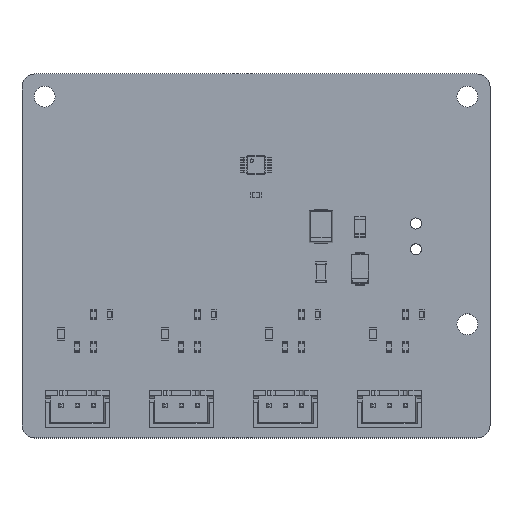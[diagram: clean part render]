
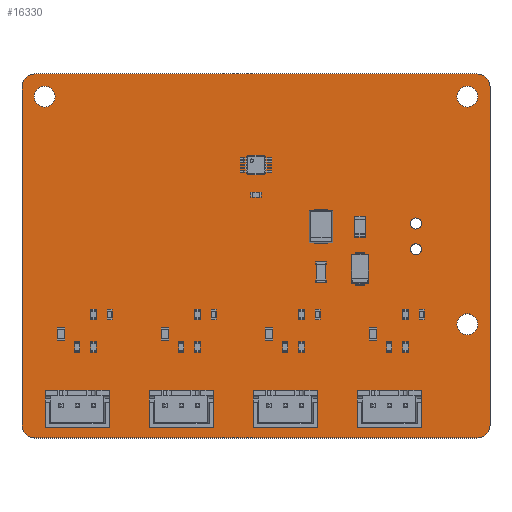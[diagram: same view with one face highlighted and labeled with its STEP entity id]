
A CAD part, top view. The second image highlights one B-rep face of the part: STEP entity #16330.
In plain terms, the highlighted planar face has unit normal (0, 0, 1).
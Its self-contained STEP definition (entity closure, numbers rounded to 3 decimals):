
#15994 = VERTEX_POINT('',#15995);
#15995 = CARTESIAN_POINT('',(170.,-100.,1.51));
#16001 = EDGE_CURVE('',#15994,#16002,#16004,.T.);
#16002 = VERTEX_POINT('',#16003);
#16003 = CARTESIAN_POINT('',(172.,-102.,1.51));
#16004 = CIRCLE('',#16005,2.);
#16005 = AXIS2_PLACEMENT_3D('',#16006,#16007,#16008);
#16006 = CARTESIAN_POINT('',(170.,-102.,1.51));
#16007 = DIRECTION('',(0.,0.,-1.));
#16008 = DIRECTION('',(0.,1.,0.));
#16036 = VERTEX_POINT('',#16037);
#16037 = CARTESIAN_POINT('',(102.,-100.,1.51));
#16043 = EDGE_CURVE('',#16036,#15994,#16044,.T.);
#16044 = LINE('',#16045,#16046);
#16045 = CARTESIAN_POINT('',(102.,-100.,1.51));
#16046 = VECTOR('',#16047,1.);
#16047 = DIRECTION('',(1.,0.,0.));
#16065 = EDGE_CURVE('',#16002,#16066,#16068,.T.);
#16066 = VERTEX_POINT('',#16067);
#16067 = CARTESIAN_POINT('',(172.,-154.,1.51));
#16068 = LINE('',#16069,#16070);
#16069 = CARTESIAN_POINT('',(172.,-102.,1.51));
#16070 = VECTOR('',#16071,1.);
#16071 = DIRECTION('',(0.,-1.,0.));
#16330 = ADVANCED_FACE('',(#16331,#16377,#16388,#16399,#16410,#16421,
    #16432,#16443,#16454,#16465,#16476,#16487,#16498,#16509,#16520,
    #16531,#16542,#16553),#16564,.T.);
#16331 = FACE_BOUND('',#16332,.T.);
#16332 = EDGE_LOOP('',(#16333,#16334,#16335,#16344,#16352,#16361,#16369,
    #16376));
#16333 = ORIENTED_EDGE('',*,*,#16001,.F.);
#16334 = ORIENTED_EDGE('',*,*,#16043,.F.);
#16335 = ORIENTED_EDGE('',*,*,#16336,.F.);
#16336 = EDGE_CURVE('',#16337,#16036,#16339,.T.);
#16337 = VERTEX_POINT('',#16338);
#16338 = CARTESIAN_POINT('',(100.,-102.,1.51));
#16339 = CIRCLE('',#16340,2.);
#16340 = AXIS2_PLACEMENT_3D('',#16341,#16342,#16343);
#16341 = CARTESIAN_POINT('',(102.,-102.,1.51));
#16342 = DIRECTION('',(0.,0.,-1.));
#16343 = DIRECTION('',(-1.,0.,-0.));
#16344 = ORIENTED_EDGE('',*,*,#16345,.F.);
#16345 = EDGE_CURVE('',#16346,#16337,#16348,.T.);
#16346 = VERTEX_POINT('',#16347);
#16347 = CARTESIAN_POINT('',(100.,-154.,1.51));
#16348 = LINE('',#16349,#16350);
#16349 = CARTESIAN_POINT('',(100.,-154.,1.51));
#16350 = VECTOR('',#16351,1.);
#16351 = DIRECTION('',(0.,1.,0.));
#16352 = ORIENTED_EDGE('',*,*,#16353,.F.);
#16353 = EDGE_CURVE('',#16354,#16346,#16356,.T.);
#16354 = VERTEX_POINT('',#16355);
#16355 = CARTESIAN_POINT('',(102.,-156.,1.51));
#16356 = CIRCLE('',#16357,2.);
#16357 = AXIS2_PLACEMENT_3D('',#16358,#16359,#16360);
#16358 = CARTESIAN_POINT('',(102.,-154.,1.51));
#16359 = DIRECTION('',(0.,0.,-1.));
#16360 = DIRECTION('',(0.,-1.,-0.));
#16361 = ORIENTED_EDGE('',*,*,#16362,.F.);
#16362 = EDGE_CURVE('',#16363,#16354,#16365,.T.);
#16363 = VERTEX_POINT('',#16364);
#16364 = CARTESIAN_POINT('',(170.,-156.,1.51));
#16365 = LINE('',#16366,#16367);
#16366 = CARTESIAN_POINT('',(170.,-156.,1.51));
#16367 = VECTOR('',#16368,1.);
#16368 = DIRECTION('',(-1.,0.,0.));
#16369 = ORIENTED_EDGE('',*,*,#16370,.F.);
#16370 = EDGE_CURVE('',#16066,#16363,#16371,.T.);
#16371 = CIRCLE('',#16372,2.);
#16372 = AXIS2_PLACEMENT_3D('',#16373,#16374,#16375);
#16373 = CARTESIAN_POINT('',(170.,-154.,1.51));
#16374 = DIRECTION('',(0.,0.,-1.));
#16375 = DIRECTION('',(1.,0.,0.));
#16376 = ORIENTED_EDGE('',*,*,#16065,.F.);
#16377 = FACE_BOUND('',#16378,.T.);
#16378 = EDGE_LOOP('',(#16379));
#16379 = ORIENTED_EDGE('',*,*,#16380,.T.);
#16380 = EDGE_CURVE('',#16381,#16381,#16383,.T.);
#16381 = VERTEX_POINT('',#16382);
#16382 = CARTESIAN_POINT('',(106.,-151.475,1.51));
#16383 = CIRCLE('',#16384,0.475);
#16384 = AXIS2_PLACEMENT_3D('',#16385,#16386,#16387);
#16385 = CARTESIAN_POINT('',(106.,-151.,1.51));
#16386 = DIRECTION('',(-0.,0.,-1.));
#16387 = DIRECTION('',(-0.,-1.,0.));
#16388 = FACE_BOUND('',#16389,.T.);
#16389 = EDGE_LOOP('',(#16390));
#16390 = ORIENTED_EDGE('',*,*,#16391,.T.);
#16391 = EDGE_CURVE('',#16392,#16392,#16394,.T.);
#16392 = VERTEX_POINT('',#16393);
#16393 = CARTESIAN_POINT('',(108.5,-151.475,1.51));
#16394 = CIRCLE('',#16395,0.475);
#16395 = AXIS2_PLACEMENT_3D('',#16396,#16397,#16398);
#16396 = CARTESIAN_POINT('',(108.5,-151.,1.51));
#16397 = DIRECTION('',(-0.,0.,-1.));
#16398 = DIRECTION('',(-0.,-1.,0.));
#16399 = FACE_BOUND('',#16400,.T.);
#16400 = EDGE_LOOP('',(#16401));
#16401 = ORIENTED_EDGE('',*,*,#16402,.T.);
#16402 = EDGE_CURVE('',#16403,#16403,#16405,.T.);
#16403 = VERTEX_POINT('',#16404);
#16404 = CARTESIAN_POINT('',(111.,-151.475,1.51));
#16405 = CIRCLE('',#16406,0.475);
#16406 = AXIS2_PLACEMENT_3D('',#16407,#16408,#16409);
#16407 = CARTESIAN_POINT('',(111.,-151.,1.51));
#16408 = DIRECTION('',(-0.,0.,-1.));
#16409 = DIRECTION('',(-0.,-1.,0.));
#16410 = FACE_BOUND('',#16411,.T.);
#16411 = EDGE_LOOP('',(#16412));
#16412 = ORIENTED_EDGE('',*,*,#16413,.T.);
#16413 = EDGE_CURVE('',#16414,#16414,#16416,.T.);
#16414 = VERTEX_POINT('',#16415);
#16415 = CARTESIAN_POINT('',(122.,-151.475,1.51));
#16416 = CIRCLE('',#16417,0.475);
#16417 = AXIS2_PLACEMENT_3D('',#16418,#16419,#16420);
#16418 = CARTESIAN_POINT('',(122.,-151.,1.51));
#16419 = DIRECTION('',(-0.,0.,-1.));
#16420 = DIRECTION('',(-0.,-1.,0.));
#16421 = FACE_BOUND('',#16422,.T.);
#16422 = EDGE_LOOP('',(#16423));
#16423 = ORIENTED_EDGE('',*,*,#16424,.T.);
#16424 = EDGE_CURVE('',#16425,#16425,#16427,.T.);
#16425 = VERTEX_POINT('',#16426);
#16426 = CARTESIAN_POINT('',(124.5,-151.475,1.51));
#16427 = CIRCLE('',#16428,0.475);
#16428 = AXIS2_PLACEMENT_3D('',#16429,#16430,#16431);
#16429 = CARTESIAN_POINT('',(124.5,-151.,1.51));
#16430 = DIRECTION('',(-0.,0.,-1.));
#16431 = DIRECTION('',(-0.,-1.,0.));
#16432 = FACE_BOUND('',#16433,.T.);
#16433 = EDGE_LOOP('',(#16434));
#16434 = ORIENTED_EDGE('',*,*,#16435,.T.);
#16435 = EDGE_CURVE('',#16436,#16436,#16438,.T.);
#16436 = VERTEX_POINT('',#16437);
#16437 = CARTESIAN_POINT('',(127.,-151.475,1.51));
#16438 = CIRCLE('',#16439,0.475);
#16439 = AXIS2_PLACEMENT_3D('',#16440,#16441,#16442);
#16440 = CARTESIAN_POINT('',(127.,-151.,1.51));
#16441 = DIRECTION('',(-0.,0.,-1.));
#16442 = DIRECTION('',(-0.,-1.,0.));
#16443 = FACE_BOUND('',#16444,.T.);
#16444 = EDGE_LOOP('',(#16445));
#16445 = ORIENTED_EDGE('',*,*,#16446,.T.);
#16446 = EDGE_CURVE('',#16447,#16447,#16449,.T.);
#16447 = VERTEX_POINT('',#16448);
#16448 = CARTESIAN_POINT('',(138.,-151.475,1.51));
#16449 = CIRCLE('',#16450,0.475);
#16450 = AXIS2_PLACEMENT_3D('',#16451,#16452,#16453);
#16451 = CARTESIAN_POINT('',(138.,-151.,1.51));
#16452 = DIRECTION('',(-0.,0.,-1.));
#16453 = DIRECTION('',(-0.,-1.,0.));
#16454 = FACE_BOUND('',#16455,.T.);
#16455 = EDGE_LOOP('',(#16456));
#16456 = ORIENTED_EDGE('',*,*,#16457,.T.);
#16457 = EDGE_CURVE('',#16458,#16458,#16460,.T.);
#16458 = VERTEX_POINT('',#16459);
#16459 = CARTESIAN_POINT('',(140.5,-151.475,1.51));
#16460 = CIRCLE('',#16461,0.475);
#16461 = AXIS2_PLACEMENT_3D('',#16462,#16463,#16464);
#16462 = CARTESIAN_POINT('',(140.5,-151.,1.51));
#16463 = DIRECTION('',(-0.,0.,-1.));
#16464 = DIRECTION('',(-0.,-1.,0.));
#16465 = FACE_BOUND('',#16466,.T.);
#16466 = EDGE_LOOP('',(#16467));
#16467 = ORIENTED_EDGE('',*,*,#16468,.T.);
#16468 = EDGE_CURVE('',#16469,#16469,#16471,.T.);
#16469 = VERTEX_POINT('',#16470);
#16470 = CARTESIAN_POINT('',(143.,-151.475,1.51));
#16471 = CIRCLE('',#16472,0.475);
#16472 = AXIS2_PLACEMENT_3D('',#16473,#16474,#16475);
#16473 = CARTESIAN_POINT('',(143.,-151.,1.51));
#16474 = DIRECTION('',(-0.,0.,-1.));
#16475 = DIRECTION('',(-0.,-1.,0.));
#16476 = FACE_BOUND('',#16477,.T.);
#16477 = EDGE_LOOP('',(#16478));
#16478 = ORIENTED_EDGE('',*,*,#16479,.T.);
#16479 = EDGE_CURVE('',#16480,#16480,#16482,.T.);
#16480 = VERTEX_POINT('',#16481);
#16481 = CARTESIAN_POINT('',(154.,-151.475,1.51));
#16482 = CIRCLE('',#16483,0.475);
#16483 = AXIS2_PLACEMENT_3D('',#16484,#16485,#16486);
#16484 = CARTESIAN_POINT('',(154.,-151.,1.51));
#16485 = DIRECTION('',(-0.,0.,-1.));
#16486 = DIRECTION('',(-0.,-1.,0.));
#16487 = FACE_BOUND('',#16488,.T.);
#16488 = EDGE_LOOP('',(#16489));
#16489 = ORIENTED_EDGE('',*,*,#16490,.T.);
#16490 = EDGE_CURVE('',#16491,#16491,#16493,.T.);
#16491 = VERTEX_POINT('',#16492);
#16492 = CARTESIAN_POINT('',(156.5,-151.475,1.51));
#16493 = CIRCLE('',#16494,0.475);
#16494 = AXIS2_PLACEMENT_3D('',#16495,#16496,#16497);
#16495 = CARTESIAN_POINT('',(156.5,-151.,1.51));
#16496 = DIRECTION('',(-0.,0.,-1.));
#16497 = DIRECTION('',(-0.,-1.,0.));
#16498 = FACE_BOUND('',#16499,.T.);
#16499 = EDGE_LOOP('',(#16500));
#16500 = ORIENTED_EDGE('',*,*,#16501,.T.);
#16501 = EDGE_CURVE('',#16502,#16502,#16504,.T.);
#16502 = VERTEX_POINT('',#16503);
#16503 = CARTESIAN_POINT('',(159.,-151.475,1.51));
#16504 = CIRCLE('',#16505,0.475);
#16505 = AXIS2_PLACEMENT_3D('',#16506,#16507,#16508);
#16506 = CARTESIAN_POINT('',(159.,-151.,1.51));
#16507 = DIRECTION('',(-0.,0.,-1.));
#16508 = DIRECTION('',(-0.,-1.,0.));
#16509 = FACE_BOUND('',#16510,.T.);
#16510 = EDGE_LOOP('',(#16511));
#16511 = ORIENTED_EDGE('',*,*,#16512,.T.);
#16512 = EDGE_CURVE('',#16513,#16513,#16515,.T.);
#16513 = VERTEX_POINT('',#16514);
#16514 = CARTESIAN_POINT('',(168.5,-140.1,1.51));
#16515 = CIRCLE('',#16516,1.6);
#16516 = AXIS2_PLACEMENT_3D('',#16517,#16518,#16519);
#16517 = CARTESIAN_POINT('',(168.5,-138.5,1.51));
#16518 = DIRECTION('',(-0.,0.,-1.));
#16519 = DIRECTION('',(-0.,-1.,0.));
#16520 = FACE_BOUND('',#16521,.T.);
#16521 = EDGE_LOOP('',(#16522));
#16522 = ORIENTED_EDGE('',*,*,#16523,.T.);
#16523 = EDGE_CURVE('',#16524,#16524,#16526,.T.);
#16524 = VERTEX_POINT('',#16525);
#16525 = CARTESIAN_POINT('',(160.6,-127.81,1.51));
#16526 = CIRCLE('',#16527,0.85);
#16527 = AXIS2_PLACEMENT_3D('',#16528,#16529,#16530);
#16528 = CARTESIAN_POINT('',(160.6,-126.96,1.51));
#16529 = DIRECTION('',(-0.,0.,-1.));
#16530 = DIRECTION('',(-0.,-1.,0.));
#16531 = FACE_BOUND('',#16532,.T.);
#16532 = EDGE_LOOP('',(#16533));
#16533 = ORIENTED_EDGE('',*,*,#16534,.T.);
#16534 = EDGE_CURVE('',#16535,#16535,#16537,.T.);
#16535 = VERTEX_POINT('',#16536);
#16536 = CARTESIAN_POINT('',(103.5,-105.1,1.51));
#16537 = CIRCLE('',#16538,1.6);
#16538 = AXIS2_PLACEMENT_3D('',#16539,#16540,#16541);
#16539 = CARTESIAN_POINT('',(103.5,-103.5,1.51));
#16540 = DIRECTION('',(-0.,0.,-1.));
#16541 = DIRECTION('',(-0.,-1.,0.));
#16542 = FACE_BOUND('',#16543,.T.);
#16543 = EDGE_LOOP('',(#16544));
#16544 = ORIENTED_EDGE('',*,*,#16545,.T.);
#16545 = EDGE_CURVE('',#16546,#16546,#16548,.T.);
#16546 = VERTEX_POINT('',#16547);
#16547 = CARTESIAN_POINT('',(160.6,-123.85,1.51));
#16548 = CIRCLE('',#16549,0.85);
#16549 = AXIS2_PLACEMENT_3D('',#16550,#16551,#16552);
#16550 = CARTESIAN_POINT('',(160.6,-123.,1.51));
#16551 = DIRECTION('',(-0.,0.,-1.));
#16552 = DIRECTION('',(-0.,-1.,0.));
#16553 = FACE_BOUND('',#16554,.T.);
#16554 = EDGE_LOOP('',(#16555));
#16555 = ORIENTED_EDGE('',*,*,#16556,.T.);
#16556 = EDGE_CURVE('',#16557,#16557,#16559,.T.);
#16557 = VERTEX_POINT('',#16558);
#16558 = CARTESIAN_POINT('',(168.5,-105.1,1.51));
#16559 = CIRCLE('',#16560,1.6);
#16560 = AXIS2_PLACEMENT_3D('',#16561,#16562,#16563);
#16561 = CARTESIAN_POINT('',(168.5,-103.5,1.51));
#16562 = DIRECTION('',(-0.,0.,-1.));
#16563 = DIRECTION('',(-0.,-1.,0.));
#16564 = PLANE('',#16565);
#16565 = AXIS2_PLACEMENT_3D('',#16566,#16567,#16568);
#16566 = CARTESIAN_POINT('',(0.,0.,1.51));
#16567 = DIRECTION('',(0.,0.,1.));
#16568 = DIRECTION('',(1.,0.,-0.));
